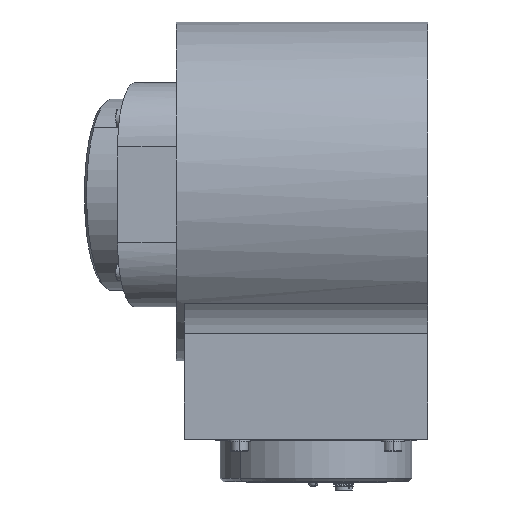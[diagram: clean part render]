
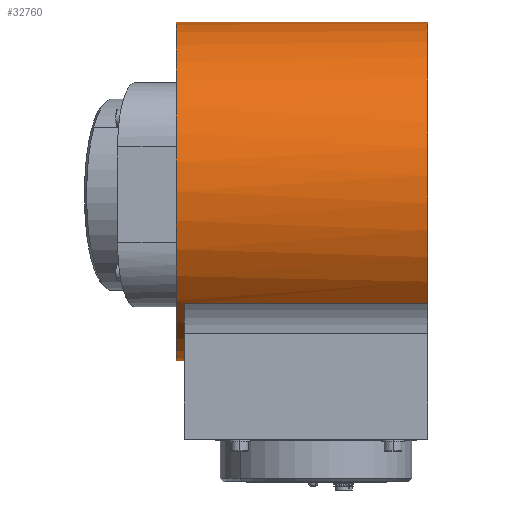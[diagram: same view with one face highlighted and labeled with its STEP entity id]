
A CAD part, left-side view. The second image highlights one B-rep face of the part: STEP entity #32760.
In plain terms, the highlighted cylindrical face has radius 53 mm (diameter 106 mm), a partial arc.
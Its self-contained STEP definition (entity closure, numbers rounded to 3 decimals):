
#4996 = DIRECTION ( 'NONE',  ( 0., -1., 0. ) ) ;
#5002 = FACE_OUTER_BOUND ( 'NONE', #50330, .T. ) ;
#5004 = CARTESIAN_POINT ( 'NONE',  ( 0., 105., 0. ) ) ;
#5008 = CYLINDRICAL_SURFACE ( 'NONE', #98839, 53. ) ;
#5010 = DIRECTION ( 'NONE',  ( 0., 0., -1. ) ) ;
#7391 = CARTESIAN_POINT ( 'NONE',  ( 0., 78.5, 53. ) ) ;
#7392 = CARTESIAN_POINT ( 'NONE',  ( 0., 78.5, -53. ) ) ;
#7397 = CARTESIAN_POINT ( 'NONE',  ( 0., 76., -53. ) ) ;
#7398 = CARTESIAN_POINT ( 'NONE',  ( -39.666, 76., -35.151 ) ) ;
#7399 = CARTESIAN_POINT ( 'NONE',  ( -39.666, 0., -35.151 ) ) ;
#7400 = CARTESIAN_POINT ( 'NONE',  ( 0., 0., 53. ) ) ;
#11047 = CARTESIAN_POINT ( 'NONE',  ( 0., 105., -53. ) ) ;
#11050 = LINE ( 'NONE', #11053, #11699 ) ;
#11053 = CARTESIAN_POINT ( 'NONE',  ( -39.666, 105., -35.151 ) ) ;
#11055 = LINE ( 'NONE', #11047, #11692 ) ;
#11056 = CARTESIAN_POINT ( 'NONE',  ( 0., 78.5, 0. ) ) ;
#11057 = DIRECTION ( 'NONE',  ( 0., -1., 0. ) ) ;
#11059 = DIRECTION ( 'NONE',  ( 0., 0., -1. ) ) ;
#11061 = DIRECTION ( 'NONE',  ( 0., -1., 0. ) ) ;
#11064 = LINE ( 'NONE', #11067, #11705 ) ;
#11067 = CARTESIAN_POINT ( 'NONE',  ( 0., 105., 53. ) ) ;
#11069 = CARTESIAN_POINT ( 'NONE',  ( 0., 76., 0. ) ) ;
#11071 = DIRECTION ( 'NONE',  ( 0., 1., 0. ) ) ;
#11073 = DIRECTION ( 'NONE',  ( -1., 0., 0. ) ) ;
#11074 = DIRECTION ( 'NONE',  ( 0., -1., 0. ) ) ;
#11081 = CARTESIAN_POINT ( 'NONE',  ( 0., 0., 0. ) ) ;
#11083 = DIRECTION ( 'NONE',  ( 0., 1., 0. ) ) ;
#11084 = DIRECTION ( 'NONE',  ( 0., 0., 1. ) ) ;
#11087 = DIRECTION ( 'NONE',  ( 0., -1., 0. ) ) ;
#11686 = CIRCLE ( 'NONE', #11696, 53. ) ;
#11692 = VECTOR ( 'NONE', #11061, 1000. ) ;
#11696 = AXIS2_PLACEMENT_3D ( 'NONE', #11056, #11057, #11059 ) ;
#11698 = CIRCLE ( 'NONE', #11701, 53. ) ;
#11699 = VECTOR ( 'NONE', #11074, 1000. ) ;
#11701 = AXIS2_PLACEMENT_3D ( 'NONE', #11069, #11071, #11073 ) ;
#11703 = CIRCLE ( 'NONE', #11707, 53. ) ;
#11705 = VECTOR ( 'NONE', #11087, 1000. ) ;
#11707 = AXIS2_PLACEMENT_3D ( 'NONE', #11081, #11083, #11084 ) ;
#32760 = ADVANCED_FACE ( 'NONE', ( #5002 ), #5008, .T. ) ;
#36385 = EDGE_CURVE ( 'NONE', #74872, #74873, #11686, .T. ) ;
#36388 = EDGE_CURVE ( 'NONE', #74873, #74878, #11055, .T. ) ;
#36390 = EDGE_CURVE ( 'NONE', #74878, #74879, #11698, .T. ) ;
#36391 = EDGE_CURVE ( 'NONE', #74879, #74880, #11050, .T. ) ;
#36394 = EDGE_CURVE ( 'NONE', #74880, #74881, #11703, .T. ) ;
#36396 = EDGE_CURVE ( 'NONE', #74872, #74881, #11064, .T. ) ;
#48461 = ORIENTED_EDGE ( 'NONE', *, *, #36385, .T. ) ;
#48463 = ORIENTED_EDGE ( 'NONE', *, *, #36388, .T. ) ;
#48465 = ORIENTED_EDGE ( 'NONE', *, *, #36390, .T. ) ;
#48467 = ORIENTED_EDGE ( 'NONE', *, *, #36391, .T. ) ;
#48469 = ORIENTED_EDGE ( 'NONE', *, *, #36394, .T. ) ;
#48471 = ORIENTED_EDGE ( 'NONE', *, *, #36396, .F. ) ;
#50330 = EDGE_LOOP ( 'NONE', ( #48461, #48463, #48465, #48467, #48469, #48471 ) ) ;
#74872 = VERTEX_POINT ( 'NONE', #7391 ) ;
#74873 = VERTEX_POINT ( 'NONE', #7392 ) ;
#74878 = VERTEX_POINT ( 'NONE', #7397 ) ;
#74879 = VERTEX_POINT ( 'NONE', #7398 ) ;
#74880 = VERTEX_POINT ( 'NONE', #7399 ) ;
#74881 = VERTEX_POINT ( 'NONE', #7400 ) ;
#98839 = AXIS2_PLACEMENT_3D ( 'NONE', #5004, #4996, #5010 ) ;
